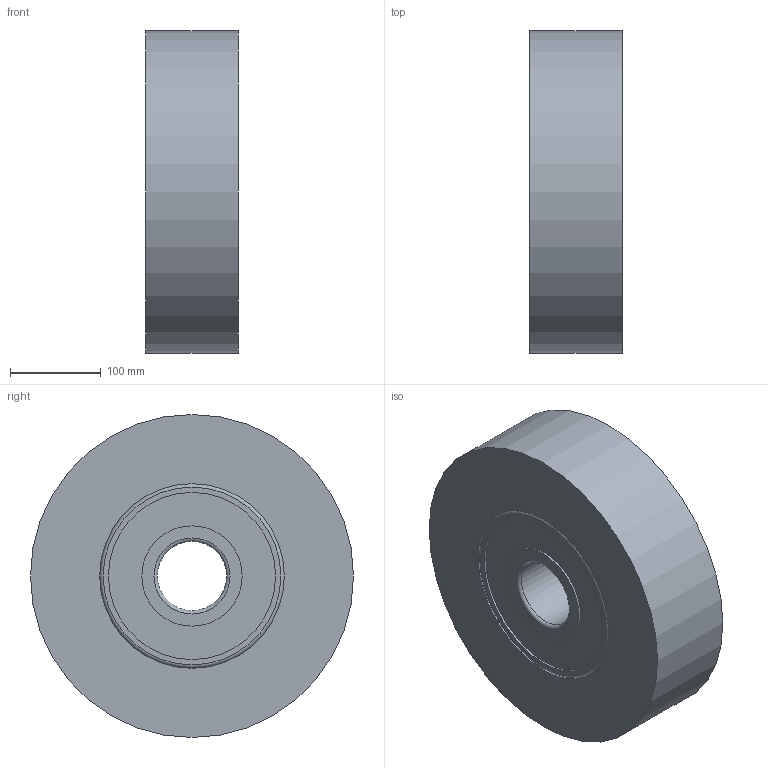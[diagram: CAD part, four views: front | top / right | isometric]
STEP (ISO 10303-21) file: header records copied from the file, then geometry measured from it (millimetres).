
FILE_DESCRIPTION((''),'1');
FILE_NAME('H:/図庫/国内ﾕﾆｯﾄ/ｶﾀﾛｸﾞ/ｺﾞﾑ直巻/ホームページ用ＣＡＤ図面/update用/3', '2017-07-14T08:51:24',(''), (''), 'KCM Version 1.1.1442.0', 'Kubotek KeyCreator', '');
FILE_SCHEMA(('AUTOMOTIVE_DESIGN'));
Length unit declared in the file: inch
Bounding box: 101.6 x 355.6 x 355.6 mm (x, y, z)
Surface area: 338893.3 mm2 (no closed solid volume)
Topology: 0 solids, 20 shells, 20 faces, 68 edges, 56 vertices
Faces by surface type: plane 8, cylinder 8, torus 4
Full cylindrical faces by diameter (mm): 76.2 x1, 110.49 x2, 184.15 x2, 203.2 x2, 355.6 x1
Entity records: 790 total; most frequent: DIRECTION 154, CARTESIAN_POINT 137, ORIENTED_EDGE 80, AXIS2_PLACEMENT_3D 73, EDGE_CURVE 68, VERTEX_POINT 56, CIRCLE 52, EDGE_LOOP 28
